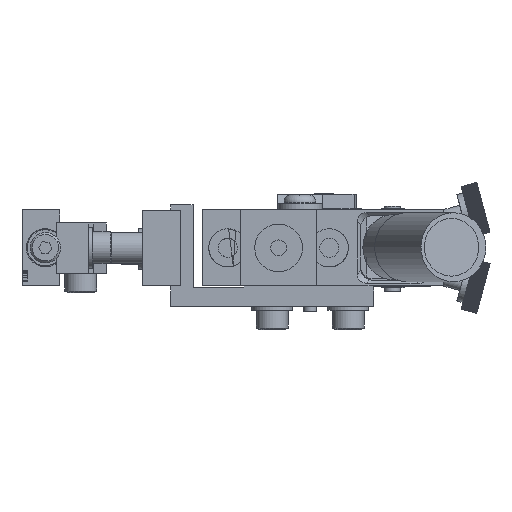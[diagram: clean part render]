
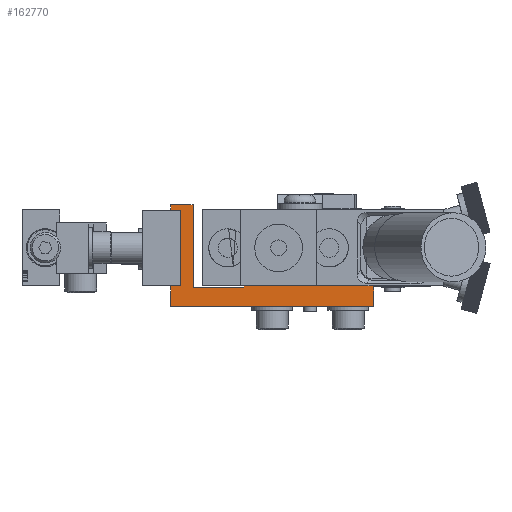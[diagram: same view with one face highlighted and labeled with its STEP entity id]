
A CAD part, left-side view. The second image highlights one B-rep face of the part: STEP entity #162770.
In plain terms, the highlighted planar face has unit normal (-1, 0, 0).
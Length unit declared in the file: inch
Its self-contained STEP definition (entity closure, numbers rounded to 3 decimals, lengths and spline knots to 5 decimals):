
#6605=CARTESIAN_POINT('',(-0.4995,1.8755,0.));
#6606=VERTEX_POINT('',#6605);
#6672=CARTESIAN_POINT('',(-0.4995,1.8755,0.745));
#6673=VERTEX_POINT('',#6672);
#7364=CARTESIAN_POINT('',(-0.4995,1.8755,0.));
#7365=DIRECTION('',(0.0,0.0,1.0));
#7366=VECTOR('',#7365,0.745);
#7367=LINE('',#7364,#7366);
#7368=EDGE_CURVE('',#6606,#6673,#7367,.T.);
#162320=CARTESIAN_POINT('',(-0.4995,1.1555,0.));
#162321=VERTEX_POINT('',#162320);
#162328=CARTESIAN_POINT('',(-0.4995,-0.1245,0.));
#162329=VERTEX_POINT('',#162328);
#162330=CARTESIAN_POINT('',(-0.4995,1.1555,0.));
#162331=DIRECTION('',(0.0,-1.0,0.0));
#162332=VECTOR('',#162331,1.28);
#162333=LINE('',#162330,#162332);
#162334=EDGE_CURVE('',#162321,#162329,#162333,.T.);
#162701=CARTESIAN_POINT('',(-0.4995,0.76361,-0.10189));
#162702=DIRECTION('',(1.0,0.0,0.0));
#162703=DIRECTION('',(0.0,-1.0,0.0));
#162704=AXIS2_PLACEMENT_3D('',#162701,#162702,#162703);
#162705=PLANE('',#162704);
#162706=CARTESIAN_POINT('',(-0.4995,1.8755,-0.2));
#162707=VERTEX_POINT('',#162706);
#162708=CARTESIAN_POINT('',(-0.4995,-0.1245,-0.2));
#162709=VERTEX_POINT('',#162708);
#162710=CARTESIAN_POINT('',(-0.4995,1.8755,-0.2));
#162711=DIRECTION('',(0.0,-1.0,0.0));
#162712=VECTOR('',#162711,2.);
#162713=LINE('',#162710,#162712);
#162714=EDGE_CURVE('',#162707,#162709,#162713,.T.);
#162715=ORIENTED_EDGE('',*,*,#162714,.T.);
#162716=CARTESIAN_POINT('',(-0.4995,-0.1245,-0.2));
#162717=DIRECTION('',(0.0,0.0,1.0));
#162718=VECTOR('',#162717,0.2);
#162719=LINE('',#162716,#162718);
#162720=EDGE_CURVE('',#162709,#162329,#162719,.T.);
#162721=ORIENTED_EDGE('',*,*,#162720,.T.);
#162722=ORIENTED_EDGE('',*,*,#162334,.F.);
#162723=CARTESIAN_POINT('',(-0.4995,1.1555,-0.015));
#162724=VERTEX_POINT('',#162723);
#162725=CARTESIAN_POINT('',(-0.4995,1.1555,0.));
#162726=DIRECTION('',(0.0,0.0,-1.0));
#162727=VECTOR('',#162726,0.015);
#162728=LINE('',#162725,#162727);
#162729=EDGE_CURVE('',#162321,#162724,#162728,.T.);
#162730=ORIENTED_EDGE('',*,*,#162729,.T.);
#162731=CARTESIAN_POINT('',(-0.4995,1.6555,-0.015));
#162732=VERTEX_POINT('',#162731);
#162733=CARTESIAN_POINT('',(-0.4995,1.1555,-0.015));
#162734=DIRECTION('',(0.0,1.0,0.0));
#162735=VECTOR('',#162734,0.5);
#162736=LINE('',#162733,#162735);
#162737=EDGE_CURVE('',#162724,#162732,#162736,.T.);
#162738=ORIENTED_EDGE('',*,*,#162737,.T.);
#162739=CARTESIAN_POINT('',(-0.4995,1.6555,0.8));
#162740=VERTEX_POINT('',#162739);
#162741=CARTESIAN_POINT('',(-0.4995,1.6555,-0.015));
#162742=DIRECTION('',(0.0,0.0,1.0));
#162743=VECTOR('',#162742,0.815);
#162744=LINE('',#162741,#162743);
#162745=EDGE_CURVE('',#162732,#162740,#162744,.T.);
#162746=ORIENTED_EDGE('',*,*,#162745,.T.);
#162747=CARTESIAN_POINT('',(-0.4995,1.8755,0.8));
#162748=VERTEX_POINT('',#162747);
#162749=CARTESIAN_POINT('',(-0.4995,1.6555,0.8));
#162750=DIRECTION('',(0.0,1.0,0.0));
#162751=VECTOR('',#162750,0.22);
#162752=LINE('',#162749,#162751);
#162753=EDGE_CURVE('',#162740,#162748,#162752,.T.);
#162754=ORIENTED_EDGE('',*,*,#162753,.T.);
#162755=CARTESIAN_POINT('',(-0.4995,1.8755,0.8));
#162756=DIRECTION('',(0.0,0.0,-1.0));
#162757=VECTOR('',#162756,0.055);
#162758=LINE('',#162755,#162757);
#162759=EDGE_CURVE('',#162748,#6673,#162758,.T.);
#162760=ORIENTED_EDGE('',*,*,#162759,.T.);
#162761=ORIENTED_EDGE('',*,*,#7368,.F.);
#162762=CARTESIAN_POINT('',(-0.4995,1.8755,0.));
#162763=DIRECTION('',(0.0,0.0,-1.0));
#162764=VECTOR('',#162763,0.2);
#162765=LINE('',#162762,#162764);
#162766=EDGE_CURVE('',#6606,#162707,#162765,.T.);
#162767=ORIENTED_EDGE('',*,*,#162766,.T.);
#162768=EDGE_LOOP('',(#162715,#162721,#162722,#162730,#162738,#162746,#162754,#162760,#162761,#162767));
#162769=FACE_OUTER_BOUND('',#162768,.T.);
#162770=ADVANCED_FACE('',(#162769),#162705,.F.);
